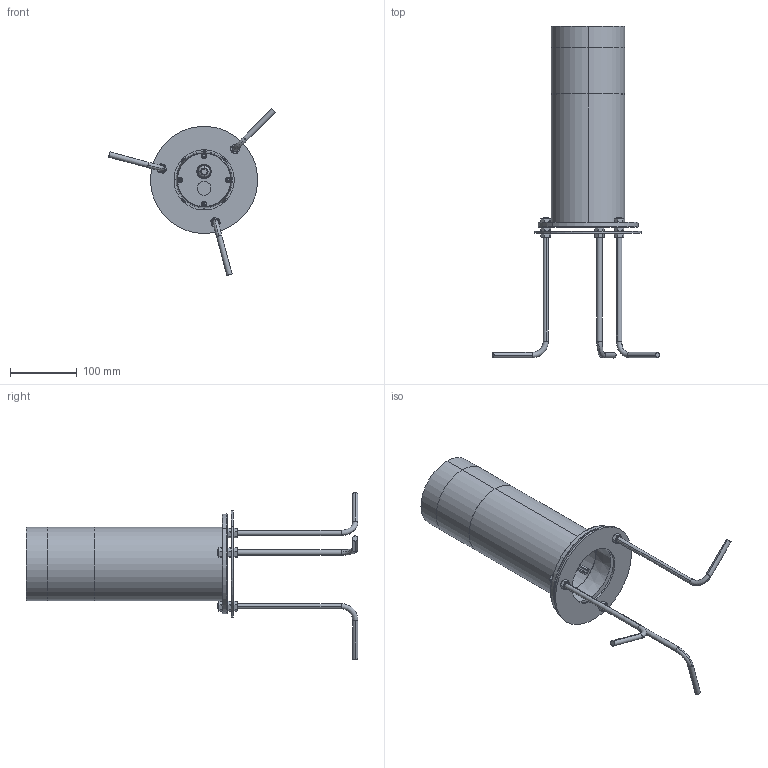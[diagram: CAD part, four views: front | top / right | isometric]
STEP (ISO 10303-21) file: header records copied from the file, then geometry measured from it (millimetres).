
FILE_DESCRIPTION((''),'2;1');
FILE_NAME('D9AH_ASM_16_ASM_ASM','2024-09-03T',('C028'),(''),'CREO PARAMETRIC BY PTC INC, 2014190','CREO PARAMETRIC BY PTC INC, 2014190','');
FILE_SCHEMA(('CONFIG_CONTROL_DESIGN'));
Products named in the file (33): 9AD-09GUDINGZUO_6_3; 9AB-04DUDINGZUOFANGSHUIQUAN_4_1; 9AB-03DUDINGZUOHOUGAI_4_1; PAD_1_135_2_1; FANGUANGSAI-1_1_135_2_1; FANGSHUISAI_1_135_2_1; PG9_ASM_1_ASM_135_ASM_2_ASM_1_ASM; PG9_ASM_2_ASM_1_ASM; 9AD-04GUDINGZHU_6_1; M4X8MM_1_1_1_2_2_1; M3_20_5_2_1; 3DJMOZU_6_2; M3X501_1_6_9_1; M4X12MM_3_1_1_2_2_1; 9AE-01KUOSHAIPIAN_3_1; 9AE_ASM_5_ASM_1_ASM; 2AE-02_9_2; 9AH-03SANREBAN_13_1; GUANGYUANBAN00_299_2_1; 9AD-02_2_1; 9AD-03_3_1; 9AH-01TOUGUANGZHAO_4_1; 9AD-01SHANGHAI_14_1; D9AH_ASM_16_ASM_1_ASM; 9AD-07_300_11; 9AB_FA_LAN_PAN_56_1; 9AB-11_4__ANY__1; M8LUOMU_3__ANY__1; 9AB-10_5__ANY__1; 9ABDIZUO_AF5_ASM_333_ASM_1_ANY__ASM; 9AN-300_ASM_13_ASM; 9AN-300_ASM_ASM; D9AH_ASM_16_ASM_ASM
Assembly tree (51 placements, depth 6):
  D9AH_ASM_16_ASM_ASM
    D9AH_ASM_16_ASM_1_ASM
      9AE_ASM_5_ASM_1_ASM
        9AD-09GUDINGZUO_6_3
        9AB-04DUDINGZUOFANGSHUIQUAN_4_1  x2
        9AB-03DUDINGZUOHOUGAI_4_1
        PG9_ASM_2_ASM_1_ASM
          PG9_ASM_1_ASM_135_ASM_2_ASM_1_ASM
            PAD_1_135_2_1
            FANGUANGSAI-1_1_135_2_1
            FANGSHUISAI_1_135_2_1
        9AD-04GUDINGZHU_6_1
        M4X8MM_1_1_1_2_2_1  x4
        M3_20_5_2_1
        3DJMOZU_6_2
        M3X501_1_6_9_1  x3
        M4X12MM_3_1_1_2_2_1  x4
        9AE-01KUOSHAIPIAN_3_1
      2AE-02_9_2
      9AH-03SANREBAN_13_1
      GUANGYUANBAN00_299_2_1
      9AD-02_2_1
      9AD-03_3_1
      9AH-01TOUGUANGZHAO_4_1
      9AD-01SHANGHAI_14_1
    9AD-07_300_11
    9AN-300_ASM_ASM
      9AN-300_ASM_13_ASM
        9AB_FA_LAN_PAN_56_1
        9ABDIZUO_AF5_ASM_333_ASM_1_ANY__ASM
          9AB-11_4__ANY__1  x3
          M8LUOMU_3__ANY__1  x9
          9AB-10_5__ANY__1
Bounding box: 248.96 x 495.45 x 248.96 mm (x, y, z)
Volume: 1027998.2 mm3; surface area: 578581.3 mm2
Topology: 44 solids, 44 shells, 2810 faces, 7878 edges, 5243 vertices
Faces by surface type: plane 1511, cylinder 510, cone 316, bspline 214, torus 201, sphere 46, revolution 12
Entity records: 89730 total; most frequent: CARTESIAN_POINT 33470, ORIENTED_EDGE 11980, DIRECTION 11194, EDGE_CURVE 5990, VERTEX_POINT 4021, AXIS2_PLACEMENT_3D 3830, VECTOR 3528, LINE 3528
